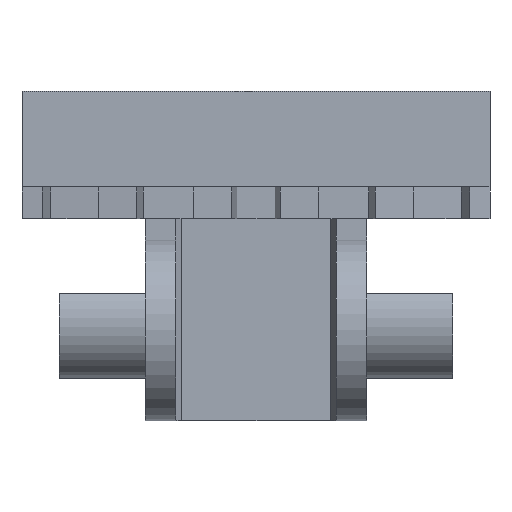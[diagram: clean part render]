
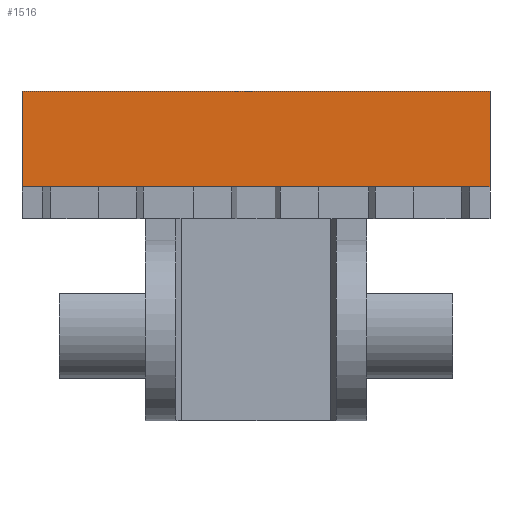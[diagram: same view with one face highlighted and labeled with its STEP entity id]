
A CAD part, left-side view. The second image highlights one B-rep face of the part: STEP entity #1516.
In plain terms, the highlighted planar face has unit normal (-1, 0, 0).
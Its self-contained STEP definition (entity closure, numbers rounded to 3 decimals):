
#4 = CARTESIAN_POINT ( 'NONE',  ( -1.254, -22.031, 45.1 ) ) ;
#32 = LINE ( 'NONE', #4, #121 ) ;
#106 = DIRECTION ( 'NONE',  ( 0., -1., 0. ) ) ;
#121 = VECTOR ( 'NONE', #106, 1000. ) ;
#242 = CARTESIAN_POINT ( 'NONE',  ( -1.254, -22.031, 45.1 ) ) ;
#244 = DIRECTION ( 'NONE',  ( 0., 0., -1. ) ) ;
#247 = VECTOR ( 'NONE', #244, 1000. ) ;
#275 = LINE ( 'NONE', #297, #247 ) ;
#297 = CARTESIAN_POINT ( 'NONE',  ( -1.254, -22.031, 45.1 ) ) ;
#320 = AXIS2_PLACEMENT_3D ( 'NONE', #417, #344, #343 ) ;
#324 = PLANE ( 'NONE',  #320 ) ;
#343 = DIRECTION ( 'NONE',  ( 0., 1., 0. ) ) ;
#344 = DIRECTION ( 'NONE',  ( 1., 0., 0. ) ) ;
#356 = CARTESIAN_POINT ( 'NONE',  ( -1.254, 21.969, 45.1 ) ) ;
#375 = FACE_OUTER_BOUND ( 'NONE', #1577, .T. ) ;
#417 = CARTESIAN_POINT ( 'NONE',  ( -1.254, -22.031, 45.1 ) ) ;
#434 = DIRECTION ( 'NONE',  ( 0., 0., -1. ) ) ;
#456 = CARTESIAN_POINT ( 'NONE',  ( -1.254, 21.969, 45.1 ) ) ;
#457 = VECTOR ( 'NONE', #434, 1000. ) ;
#472 = LINE ( 'NONE', #456, #457 ) ;
#841 = EDGE_CURVE ( 'NONE', #988, #925, #2357, .T. ) ;
#925 = VERTEX_POINT ( 'NONE', #2524 ) ;
#988 = VERTEX_POINT ( 'NONE', #2595 ) ;
#1402 = EDGE_CURVE ( 'NONE', #1414, #925, #275, .T. ) ;
#1414 = VERTEX_POINT ( 'NONE', #242 ) ;
#1460 = EDGE_CURVE ( 'NONE', #1478, #1414, #32, .T. ) ;
#1478 = VERTEX_POINT ( 'NONE', #356 ) ;
#1516 = ADVANCED_FACE ( 'NONE', ( #375 ), #324, .F. ) ;
#1517 = ORIENTED_EDGE ( 'NONE', *, *, #1460, .F. ) ;
#1518 = ORIENTED_EDGE ( 'NONE', *, *, #1402, .F. ) ;
#1519 = ORIENTED_EDGE ( 'NONE', *, *, #1565, .T. ) ;
#1565 = EDGE_CURVE ( 'NONE', #1478, #988, #472, .T. ) ;
#1571 = ORIENTED_EDGE ( 'NONE', *, *, #841, .T. ) ;
#1577 = EDGE_LOOP ( 'NONE', ( #1571, #1518, #1517, #1519 ) ) ;
#2316 = DIRECTION ( 'NONE',  ( 0., -1., 0. ) ) ;
#2317 = CARTESIAN_POINT ( 'NONE',  ( -1.254, -22.031, 36.1 ) ) ;
#2357 = LINE ( 'NONE', #2317, #2376 ) ;
#2376 = VECTOR ( 'NONE', #2316, 1000. ) ;
#2524 = CARTESIAN_POINT ( 'NONE',  ( -1.254, -22.031, 36.1 ) ) ;
#2595 = CARTESIAN_POINT ( 'NONE',  ( -1.254, 21.969, 36.1 ) ) ;
